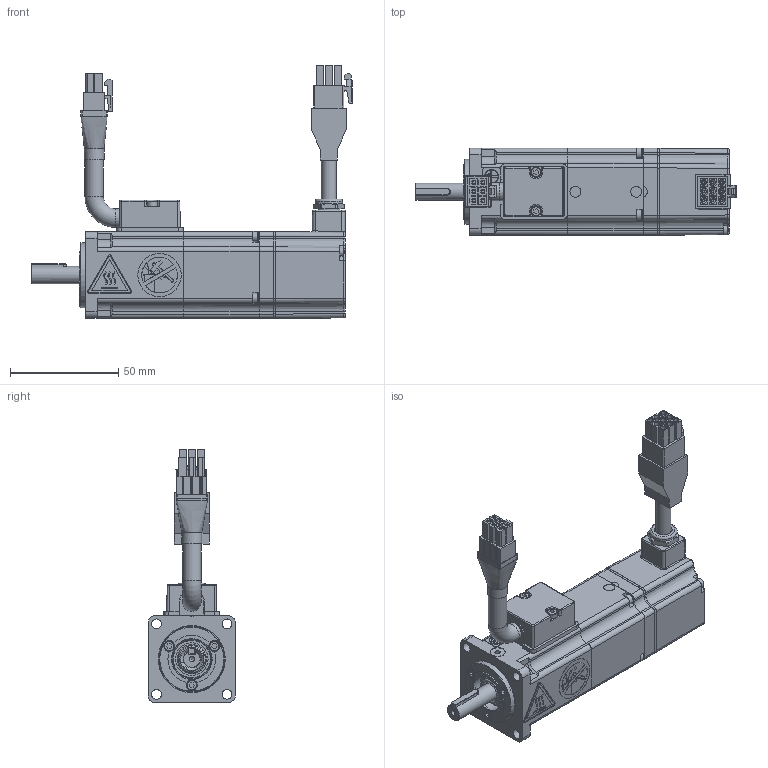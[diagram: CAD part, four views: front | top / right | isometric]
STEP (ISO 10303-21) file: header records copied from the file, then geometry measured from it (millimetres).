
FILE_DESCRIPTION( ( 'Unknown' ), '1' );
FILE_NAME( 'U:/05_Progetto TCE/010-TCE motor drawings/TCE40/Vuoti/TCE40 1A XX 3 A1 1 D0.stp', 'Unknown', ( 'Unknown' ), ( 'Unknown' ), 'PSStep 17.0.49', 'Unknown', ' ' );
FILE_SCHEMA( ( 'AUTOMOTIVE_DESIGN { 1 0 10303 214 1 1 1 1 }' ) );
Length unit declared in the file: millimetre
Products named in the file (45): 003108015152_curva; 003303000376; 005453000452_D8,5; 007102000222; 001107000616; 003303000025; 003711000103; 005603001004; cavo cablato x campana TCE - SICK; U5190003_vuoto; 005911000598; 001799000503; 003120002500; Assem1; 005123000992; 005119000350; 005911000185; 005123000910; 003103001506; 003155000300; 003251022000; 005204000002; 005113000108; 005204000004; 005204000001; 005007000082; 005911001001; 005008000104-oa0; 005008000104-oa1; 005008000134-oa2; 005008000134-oa3; 005008000134-oa4; 005009002005; 005911003639; 003155000305; 003303000377; 003911000274; 003003199319
Assembly tree (53 placements, depth 4):
  Assem1
    005123000992
    005123000992
    005119000350
    005119000350
    005911000185  x3
    005123000910
    005123000910
    003103001506
    003155000300
    003251022000
    005204000002
    005113000108
    005204000004
    005204000001
    005007000082
    005911001001  x4
    005008000104-oa0
    005008000104-oa1
    005008000134-oa2
    005008000134-oa3
    005008000134-oa4
    005009002005
    005911003639  x3
    003155000305
    003303000377
    003911000274  x2
    003003199319
    007102000222
      001107000616
      003303000025
      003711000103
      005603001004
      cavo cablato x campana TCE - SICK
      cavo cablato x campana TCE - SICK
    U5190003_vuoto
      005911000598  x2
      001799000503
      003120002500
      003108015152_curva
        003303000376
        005453000452_D8,5
        003108015152_curva
        003108015152_curva
        003108015152_curva
Bounding box: 147.9 x 40.4 x 116.8 mm (x, y, z)
Volume: 87169.5 mm3; surface area: 87179.1 mm2
Topology: 50 solids, 50 shells, 2104 faces, 5339 edges, 3453 vertices
Faces by surface type: plane 1339, cylinder 444, cone 109, torus 89, bspline 66, extrusion 37, sphere 20
Full cylindrical faces by diameter (mm): 1 x1, 2.013 x25, 2.459 x11, 2.5 x16, 2.6 x9, 2.7 x16, 2.8 x2, 4.2 x2, 4.5 x4, 4.7 x12, 5 x8, 5.99 x1, 6 x3, 6.5 x1, 6.8 x1, 7 x2, 7.1 x1, 7.2 x2, 7.25 x1, 7.99 x1, 8 x4, 8.1 x1, 8.5 x2, 8.51 x1, 9.11 x1, 9.5 x1, 10 x1, 10.16 x2, 10.3 x2, 10.647 x1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
Entity records: 79035 total; most frequent: CARTESIAN_POINT 17668, DIRECTION 9257, ORIENTED_EDGE 9160, EDGE_CURVE 4580, VECTOR 3225, LINE 3188, VERTEX_POINT 3164, AXIS2_PLACEMENT_3D 3016
